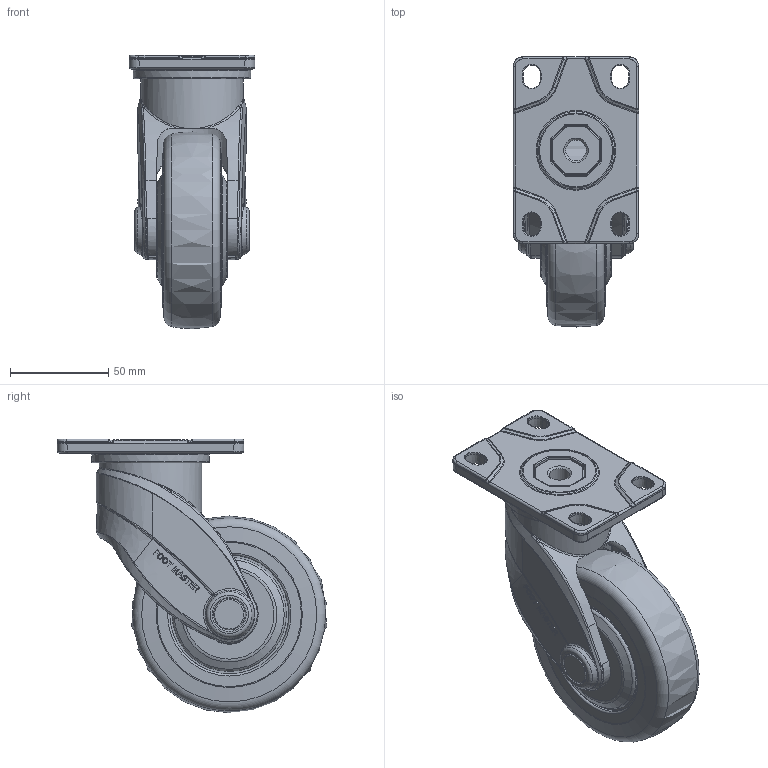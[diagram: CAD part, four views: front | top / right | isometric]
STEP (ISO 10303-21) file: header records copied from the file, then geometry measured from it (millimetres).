
FILE_DESCRIPTION(/* description */ (''),/* implementation_level */ '2;1');
FILE_NAME(/* name */ '\\192.168.10.38\지덕공유\1.기술연구소\2.연구개발 진행중\129.Plastic caster검토건_2025.08.12\1.도면\4.홈페이지용 도면\GPC-100-ASF_F4-7_#6806_KING PIN-M12_샤프트 리벳_Shrinkwrap_1.stp',/* time_stamp */ '2026-08-20T16:44:44+09:00',/* author */ ('admin'),/* organization */ (''),/* preprocessor_version */ 'ST-DEVELOPER v18.1',/* originating_system */ 'Autodesk Inventor 2021',/* authorisation */ '');
FILE_SCHEMA (('AUTOMOTIVE_DESIGN { 1 0 10303 214 3 1 1 }'));
Products named in the file (1): #68414
Bounding box: 63.93 x 137.1 x 139 mm (x, y, z)
Volume: 375985.9 mm3; surface area: 59931.3 mm2
Topology: 1 solids, 1 shells, 1136 faces, 2927 edges, 1816 vertices
Faces by surface type: bspline 536, plane 262, cylinder 154, torus 90, cone 83, sphere 11
Full cylindrical faces by diameter (mm): 10.5 x1, 18 x1, 40.6 x1, 52 x1
Entity records: 68408 total; most frequent: CARTESIAN_POINT 44464, ORIENTED_EDGE 5822, DIRECTION 3633, EDGE_CURVE 2911, VERTEX_POINT 1816, AXIS2_PLACEMENT_3D 1472, B_SPLINE_CURVE_WITH_KNOTS 1346, EDGE_LOOP 1189
